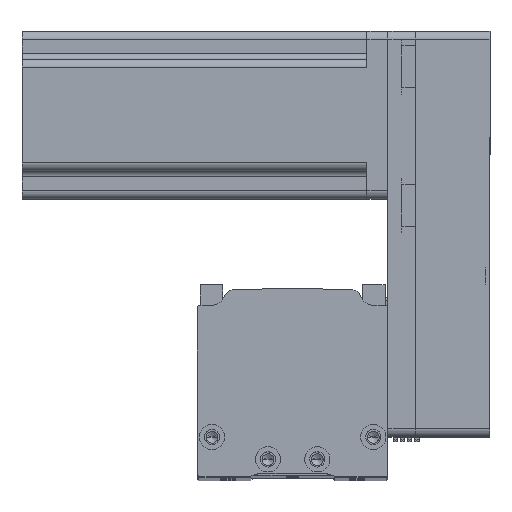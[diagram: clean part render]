
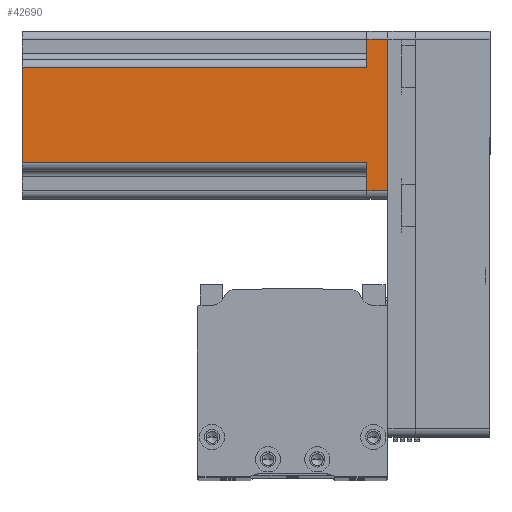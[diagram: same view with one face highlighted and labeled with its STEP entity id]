
A CAD part, top view. The second image highlights one B-rep face of the part: STEP entity #42690.
In plain terms, the highlighted planar face has unit normal (0, 0, 1) as drawn and (0, -1, 0) by its records, which use the part's own axes.
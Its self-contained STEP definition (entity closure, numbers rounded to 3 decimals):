
#223 = VECTOR ( 'NONE', #7547, 1000. ) ;
#1484 = ORIENTED_EDGE ( 'NONE', *, *, #47719, .T. ) ;
#1953 = VECTOR ( 'NONE', #11372, 1000. ) ;
#2694 = CARTESIAN_POINT ( 'NONE',  ( 27., -30., 130.7 ) ) ;
#3490 = CARTESIAN_POINT ( 'NONE',  ( 17., -30., 130.7 ) ) ;
#6323 = EDGE_CURVE ( 'NONE', #35796, #40906, #19466, .T. ) ;
#6353 = FACE_OUTER_BOUND ( 'NONE', #48059, .T. ) ;
#6376 = DIRECTION ( 'NONE',  ( 0., 0., 1. ) ) ;
#6972 = EDGE_CURVE ( 'NONE', #22552, #40906, #30358, .T. ) ;
#7130 = CARTESIAN_POINT ( 'NONE',  ( 30., -30., 0. ) ) ;
#7201 = DIRECTION ( 'NONE',  ( 0., 1., 0. ) ) ;
#7265 = VERTEX_POINT ( 'NONE', #46489 ) ;
#7547 = DIRECTION ( 'NONE',  ( 0., 0., -1. ) ) ;
#8118 = CARTESIAN_POINT ( 'NONE',  ( 17., -30., 7.5 ) ) ;
#8444 = ORIENTED_EDGE ( 'NONE', *, *, #15331, .T. ) ;
#8605 = EDGE_CURVE ( 'NONE', #19138, #13200, #38514, .T. ) ;
#9971 = VECTOR ( 'NONE', #6376, 1000. ) ;
#10077 = LINE ( 'NONE', #37073, #223 ) ;
#10273 = AXIS2_PLACEMENT_3D ( 'NONE', #29388, #7201, #33150 ) ;
#11371 = LINE ( 'NONE', #45205, #20052 ) ;
#11372 = DIRECTION ( 'NONE',  ( 1., 0., 0. ) ) ;
#13200 = VERTEX_POINT ( 'NONE', #3490 ) ;
#14704 = LINE ( 'NONE', #34784, #33262 ) ;
#15081 = CARTESIAN_POINT ( 'NONE',  ( -20., -30., 7.5 ) ) ;
#15118 = VERTEX_POINT ( 'NONE', #18615 ) ;
#15165 = EDGE_CURVE ( 'NONE', #22552, #7265, #10077, .T. ) ;
#15331 = EDGE_CURVE ( 'NONE', #15118, #19138, #14704, .T. ) ;
#15802 = VECTOR ( 'NONE', #33082, 1000. ) ;
#18310 = VECTOR ( 'NONE', #26129, 1000. ) ;
#18615 = CARTESIAN_POINT ( 'NONE',  ( 27., -30., 7.5 ) ) ;
#19138 = VERTEX_POINT ( 'NONE', #8118 ) ;
#19200 = ORIENTED_EDGE ( 'NONE', *, *, #22034, .F. ) ;
#19466 = LINE ( 'NONE', #41388, #18310 ) ;
#19679 = CARTESIAN_POINT ( 'NONE',  ( -17., -30., 130.7 ) ) ;
#20052 = VECTOR ( 'NONE', #37932, 1000. ) ;
#20374 = ORIENTED_EDGE ( 'NONE', *, *, #8605, .T. ) ;
#20684 = ORIENTED_EDGE ( 'NONE', *, *, #6323, .T. ) ;
#21517 = CARTESIAN_POINT ( 'NONE',  ( 17., -30., 130.7 ) ) ;
#22034 = EDGE_CURVE ( 'NONE', #35796, #13200, #11371, .T. ) ;
#22552 = VERTEX_POINT ( 'NONE', #41260 ) ;
#23765 = DIRECTION ( 'NONE',  ( -1., 0., 0. ) ) ;
#23796 = CARTESIAN_POINT ( 'NONE',  ( 27., -30., 0. ) ) ;
#26129 = DIRECTION ( 'NONE',  ( 0., 0., -1. ) ) ;
#28637 = VECTOR ( 'NONE', #47435, 1000. ) ;
#29388 = CARTESIAN_POINT ( 'NONE',  ( 30., -30., 130.7 ) ) ;
#29661 = LINE ( 'NONE', #2694, #9971 ) ;
#30358 = LINE ( 'NONE', #15081, #1953 ) ;
#31473 = ORIENTED_EDGE ( 'NONE', *, *, #41730, .T. ) ;
#33082 = DIRECTION ( 'NONE',  ( 1., 0., 0. ) ) ;
#33150 = DIRECTION ( 'NONE',  ( -1., 0., 0. ) ) ;
#33191 = VERTEX_POINT ( 'NONE', #23796 ) ;
#33262 = VECTOR ( 'NONE', #23765, 1000. ) ;
#34784 = CARTESIAN_POINT ( 'NONE',  ( 20., -30., 7.5 ) ) ;
#35796 = VERTEX_POINT ( 'NONE', #19679 ) ;
#37073 = CARTESIAN_POINT ( 'NONE',  ( -27., -30., 130.7 ) ) ;
#37738 = ORIENTED_EDGE ( 'NONE', *, *, #15165, .T. ) ;
#37932 = DIRECTION ( 'NONE',  ( 1., 0., 0. ) ) ;
#38357 = CARTESIAN_POINT ( 'NONE',  ( -17., -30., 7.5 ) ) ;
#38514 = LINE ( 'NONE', #21517, #28637 ) ;
#40440 = PLANE ( 'NONE',  #10273 ) ;
#40906 = VERTEX_POINT ( 'NONE', #38357 ) ;
#41260 = CARTESIAN_POINT ( 'NONE',  ( -27., -30., 7.5 ) ) ;
#41388 = CARTESIAN_POINT ( 'NONE',  ( -17., -30., 130.7 ) ) ;
#41549 = ORIENTED_EDGE ( 'NONE', *, *, #6972, .F. ) ;
#41730 = EDGE_CURVE ( 'NONE', #7265, #33191, #44208, .T. ) ;
#42690 = ADVANCED_FACE ( 'NONE', ( #6353 ), #40440, .F. ) ;
#44208 = LINE ( 'NONE', #7130, #15802 ) ;
#45205 = CARTESIAN_POINT ( 'NONE',  ( 30., -30., 130.7 ) ) ;
#46489 = CARTESIAN_POINT ( 'NONE',  ( -27., -30., 0. ) ) ;
#47435 = DIRECTION ( 'NONE',  ( 0., 0., 1. ) ) ;
#47719 = EDGE_CURVE ( 'NONE', #33191, #15118, #29661, .T. ) ;
#48059 = EDGE_LOOP ( 'NONE', ( #19200, #20684, #41549, #37738, #31473, #1484, #8444, #20374 ) ) ;
